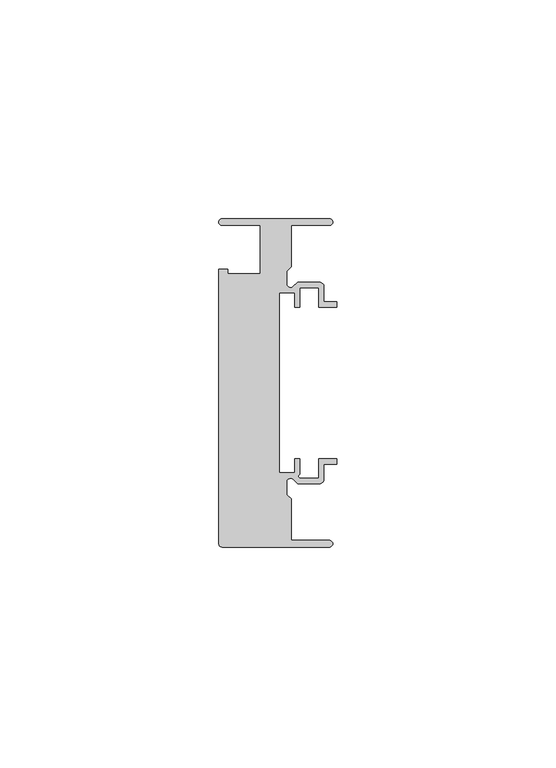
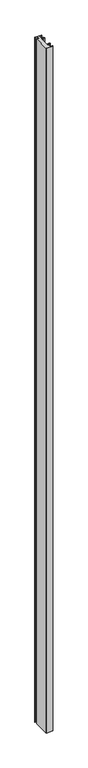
"""IFC4 building model written with IfcOpenShell, lengths in millimetres: member geometry, Прямоугольный импост : 5-AMG-1-Профиль 26Х75 Верх П."""

from ifc_helpers import new_model, si_unit, point, frame, frame_2d, origin, place, context, project, spatial, polyline, circle_curve, trimmed, segment, composite_curve, outline, extrude, source, transform, mapped, element, save


def member_e6ef7e3b(model_context):
    return source(origin(), model_context, "Body", "SweptSolid", [
        extrude(outline(composite_curve([segment(trimmed(circle_curve(frame_2d((-1.7, 36.75)), 0.75), [point((-1.7, 37.5))], [point((-1.7, 36.0))], False, "CARTESIAN"), True, "CONTINUOUS"), segment(polyline([(-1.7, 36.0), (-10.5, 36.0), (-10.5, 26.5029437), (-11.5, 25.5029437), (-11.5, 22.6727922)]), True, "CONTINUOUS"), segment(trimmed(circle_curve(frame_2d((-10.6, 22.6727922)), 0.9), [point((-11.5, 22.6727922))], [point((-9.9636039, 22.0363961))], True, "CARTESIAN"), True, "CONTINUOUS"), segment(polyline([(-9.9636039, 22.0363961), (-9.0, 23.0), (-4.0, 23.0)]), True, "CONTINUOUS"), segment(trimmed(circle_curve(frame_2d((-4.0, 22.0)), 1.0), [point((-4.0, 23.0))], [point((-3.0, 22.0))], False, "CARTESIAN"), True, "CONTINUOUS"), segment(polyline([(-3.0, 22.0), (-3.0, 18.55), (0.0, 18.55), (0.0, 17.35), (-4.2, 17.35), (-4.2, 21.8), (-8.45, 21.8), (-8.45, 17.35), (-9.65, 17.35), (-9.65, 20.55), (-13.15, 20.55), (-13.15, -20.55), (-9.65, -20.55), (-9.65, -17.35), (-8.45, -17.35), (-8.45, -20.8470563)]), True, "CONTINUOUS"), segment(trimmed(circle_curve(frame_2d((-8.3343131, -21.3314262)), 0.4979937), [point((-8.45, -20.8470563))], [point((-8.5029437, -21.8))], True, "CARTESIAN"), True, "CONTINUOUS"), segment(polyline([(-8.5029437, -21.8), (-4.2, -21.8), (-4.2, -17.35), (0.0, -17.35), (0.0, -18.55), (-3.0, -18.55), (-3.0, -22.0)]), True, "CONTINUOUS"), segment(trimmed(circle_curve(frame_2d((-4.0, -22.0)), 1.0), [point((-3.0, -22.0))], [point((-4.0, -23.0))], False, "CARTESIAN"), True, "CONTINUOUS"), segment(polyline([(-4.0, -23.0), (-9.0, -23.0), (-9.9636039, -22.0363961)]), True, "CONTINUOUS"), segment(trimmed(circle_curve(frame_2d((-10.6, -22.6727922)), 0.9), [point((-9.9636039, -22.0363961))], [point((-11.5, -22.6727922))], True, "CARTESIAN"), True, "CONTINUOUS"), segment(polyline([(-11.5, -22.6727922), (-11.5, -25.5029437), (-10.5, -26.5029437), (-10.5, -36.0), (-1.7, -36.0)]), True, "CONTINUOUS"), segment(trimmed(circle_curve(frame_2d((-1.7, -36.75)), 0.75), [point((-1.7, -36.0))], [point((-1.7, -37.5))], False, "CARTESIAN"), True, "CONTINUOUS"), segment(polyline([(-1.7, -37.5), (-26.25, -37.5)]), True, "CONTINUOUS"), segment(trimmed(circle_curve(frame_2d((-26.2240507, -36.7244847)), 0.7759493), [point((-26.25, -37.5))], [point((-27.0, -36.7244847))], False, "CARTESIAN"), True, "CONTINUOUS"), segment(polyline([(-27.0, -36.7244847), (-27.0, 26.0), (-24.9359877, 26.0), (-24.9359877, 25.0), (-17.5, 25.0), (-17.5, 36.0), (-26.25, 36.0)]), True, "CONTINUOUS"), segment(trimmed(circle_curve(frame_2d((-26.25, 36.75)), 0.75), [point((-26.25, 36.0))], [point((-26.25, 37.5))], False, "CARTESIAN"), True, "CONTINUOUS"), segment(polyline([(-26.25, 37.5), (-1.7, 37.5)]), True, "CONTINUOUS")], self_intersect=False)), frame((0.0, 0.0, -2800.0), z_axis=(0.0, 0.0, 1.0), x_axis=(1.0, 0.0, 0.0)), (0.0, 0.0, 1.0), 2800.0),
    ])


if __name__ == "__main__":
    model = new_model("IFC4")
    model_context = context("Model", 3, world=origin())
    ifc_project = project(units=[si_unit("LENGTHUNIT", "METRE", prefix="MILLI")], contexts=[model_context])
    site = spatial("IfcSite", under=ifc_project)
    building = spatial("IfcBuilding", under=site)
    placement = place(None, origin())
    member_shape = member_e6ef7e3b(model_context)
    element("IfcMember", 1, ObjectType="Прямоугольный импост : 5-AMG-1-Профиль 26Х75 Верх П", at=placement, inside=building, context=model_context, shape_type="MappedRepresentation", body=[
        mapped(member_shape, transform((0.0, 0.0, 0.0), x_axis=(1.0, 0.0, 0.0), y_axis=(0.0, 1.0, 0.0), z_axis=(0.0, 0.0, 1.0))),
    ])
    save(model, "model.ifc")
